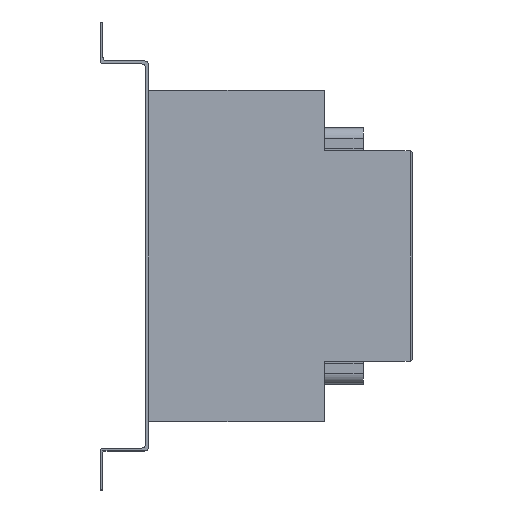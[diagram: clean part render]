
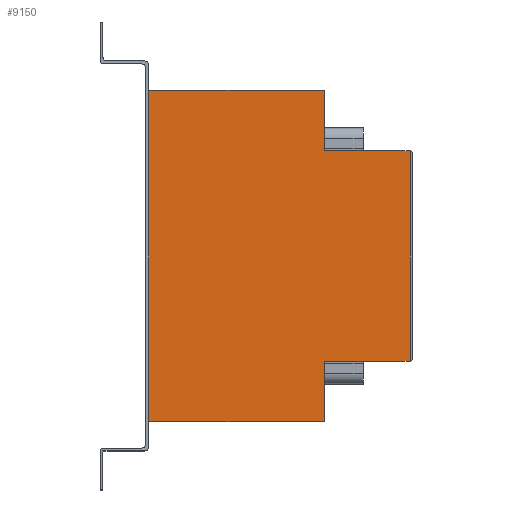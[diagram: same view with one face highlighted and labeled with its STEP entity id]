
A CAD part, left-side view. The second image highlights one B-rep face of the part: STEP entity #9150.
In plain terms, the highlighted planar face has unit normal (-1, 0, 0).
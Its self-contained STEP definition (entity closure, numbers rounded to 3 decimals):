
#362=PLANE('',#9766);
#723=FACE_OUTER_BOUND('',#1251,.T.);
#1251=EDGE_LOOP('',(#6715,#6716,#6717,#6718,#6719,#6720,#6721,#6722,#6723,
#6724,#6725,#6726));
#1844=LINE('',#13009,#2831);
#1914=LINE('',#13213,#2901);
#1969=LINE('',#13343,#2956);
#2041=LINE('',#13513,#3028);
#2052=LINE('',#13538,#3039);
#2059=LINE('',#13560,#3046);
#2060=LINE('',#13562,#3047);
#2061=LINE('',#13563,#3048);
#2831=VECTOR('',#10491,43.);
#2901=VECTOR('',#10667,43.);
#2956=VECTOR('',#10772,89.);
#3028=VECTOR('',#10916,89.);
#3039=VECTOR('',#10937,29.);
#3046=VECTOR('',#10966,108.);
#3047=VECTOR('',#10969,29.);
#3048=VECTOR('',#10970,170.);
#3755=CIRCLE('',#9662,1.);
#3767=CIRCLE('',#9710,1.);
#3786=CIRCLE('',#9751,1.);
#3788=CIRCLE('',#9757,1.);
#4052=VERTEX_POINT('',#13006);
#4053=VERTEX_POINT('',#13008);
#4079=VERTEX_POINT('',#13083);
#4133=VERTEX_POINT('',#13210);
#4134=VERTEX_POINT('',#13212);
#4178=VERTEX_POINT('',#13326);
#4179=VERTEX_POINT('',#13327);
#4184=VERTEX_POINT('',#13342);
#4245=VERTEX_POINT('',#13510);
#4246=VERTEX_POINT('',#13512);
#4251=VERTEX_POINT('',#13525);
#4255=VERTEX_POINT('',#13537);
#4961=EDGE_CURVE('',#4053,#4052,#1844,.T.);
#5000=EDGE_CURVE('',#4053,#4079,#3755,.T.);
#5062=EDGE_CURVE('',#4134,#4133,#1914,.T.);
#5123=EDGE_CURVE('',#4178,#4179,#3767,.T.);
#5131=EDGE_CURVE('',#4184,#4179,#1969,.T.);
#5220=EDGE_CURVE('',#4246,#4245,#2041,.T.);
#5227=EDGE_CURVE('',#4246,#4251,#3786,.T.);
#5233=EDGE_CURVE('',#4255,#4251,#2052,.T.);
#5236=EDGE_CURVE('',#4255,#4133,#3788,.T.);
#5246=EDGE_CURVE('',#4134,#4052,#2059,.T.);
#5247=EDGE_CURVE('',#4178,#4079,#2060,.T.);
#5248=EDGE_CURVE('',#4184,#4245,#2061,.T.);
#6715=ORIENTED_EDGE('',*,*,#5123,.F.);
#6716=ORIENTED_EDGE('',*,*,#5247,.T.);
#6717=ORIENTED_EDGE('',*,*,#5000,.F.);
#6718=ORIENTED_EDGE('',*,*,#4961,.T.);
#6719=ORIENTED_EDGE('',*,*,#5246,.F.);
#6720=ORIENTED_EDGE('',*,*,#5062,.T.);
#6721=ORIENTED_EDGE('',*,*,#5236,.F.);
#6722=ORIENTED_EDGE('',*,*,#5233,.T.);
#6723=ORIENTED_EDGE('',*,*,#5227,.F.);
#6724=ORIENTED_EDGE('',*,*,#5220,.T.);
#6725=ORIENTED_EDGE('',*,*,#5248,.F.);
#6726=ORIENTED_EDGE('',*,*,#5131,.T.);
#9150=ADVANCED_FACE('',(#723),#362,.T.);
#9662=AXIS2_PLACEMENT_3D('',#13084,#10566,#10567);
#9710=AXIS2_PLACEMENT_3D('',#13328,#10758,#10759);
#9751=AXIS2_PLACEMENT_3D('',#13526,#10925,#10926);
#9757=AXIS2_PLACEMENT_3D('',#13542,#10943,#10944);
#9766=AXIS2_PLACEMENT_3D('',#13561,#10967,#10968);
#10491=DIRECTION('',(0.,-1.,0.));
#10566=DIRECTION('center_axis',(-1.,0.,0.));
#10567=DIRECTION('ref_axis',(0.,0.707,0.707));
#10667=DIRECTION('',(0.,1.,0.));
#10758=DIRECTION('center_axis',(1.,0.,0.));
#10759=DIRECTION('ref_axis',(0.,-0.707,-0.707));
#10772=DIRECTION('',(0.,-1.,0.));
#10916=DIRECTION('',(0.,1.,0.));
#10925=DIRECTION('center_axis',(1.,0.,0.));
#10926=DIRECTION('ref_axis',(0.,-0.707,0.707));
#10937=DIRECTION('',(0.,0.,1.));
#10943=DIRECTION('center_axis',(-1.,0.,0.));
#10944=DIRECTION('ref_axis',(0.,0.707,-0.707));
#10966=DIRECTION('',(0.,0.,-1.));
#10967=DIRECTION('center_axis',(-1.,0.,0.));
#10968=DIRECTION('ref_axis',(0.,-1.,0.));
#10969=DIRECTION('',(0.,0.,1.));
#10970=DIRECTION('',(0.,0.,1.));
#13006=CARTESIAN_POINT('',(28.145,-288.265,42.5));
#13008=CARTESIAN_POINT('',(28.145,-245.265,42.5));
#13009=CARTESIAN_POINT('',(28.145,-244.265,42.5));
#13083=CARTESIAN_POINT('',(28.145,-244.265,41.5));
#13084=CARTESIAN_POINT('Origin',(28.145,-245.265,41.5));
#13210=CARTESIAN_POINT('',(28.145,-245.265,150.5));
#13212=CARTESIAN_POINT('',(28.145,-288.265,150.5));
#13213=CARTESIAN_POINT('',(28.145,-289.265,150.5));
#13326=CARTESIAN_POINT('',(28.145,-244.265,12.5));
#13327=CARTESIAN_POINT('',(28.145,-243.265,11.5));
#13328=CARTESIAN_POINT('Origin',(28.145,-243.265,12.5));
#13342=CARTESIAN_POINT('',(28.145,-154.265,11.5));
#13343=CARTESIAN_POINT('',(28.145,-154.265,11.5));
#13510=CARTESIAN_POINT('',(28.145,-154.265,181.5));
#13512=CARTESIAN_POINT('',(28.145,-243.265,181.5));
#13513=CARTESIAN_POINT('',(28.145,-244.265,181.5));
#13525=CARTESIAN_POINT('',(28.145,-244.265,180.5));
#13526=CARTESIAN_POINT('Origin',(28.145,-243.265,180.5));
#13537=CARTESIAN_POINT('',(28.145,-244.265,151.5));
#13538=CARTESIAN_POINT('',(28.145,-244.265,150.5));
#13542=CARTESIAN_POINT('Origin',(28.145,-245.265,151.5));
#13560=CARTESIAN_POINT('',(28.145,-288.265,69.5));
#13561=CARTESIAN_POINT('Origin',(28.145,-217.191,96.5));
#13562=CARTESIAN_POINT('',(28.145,-244.265,11.5));
#13563=CARTESIAN_POINT('',(28.145,-154.265,146.5));
